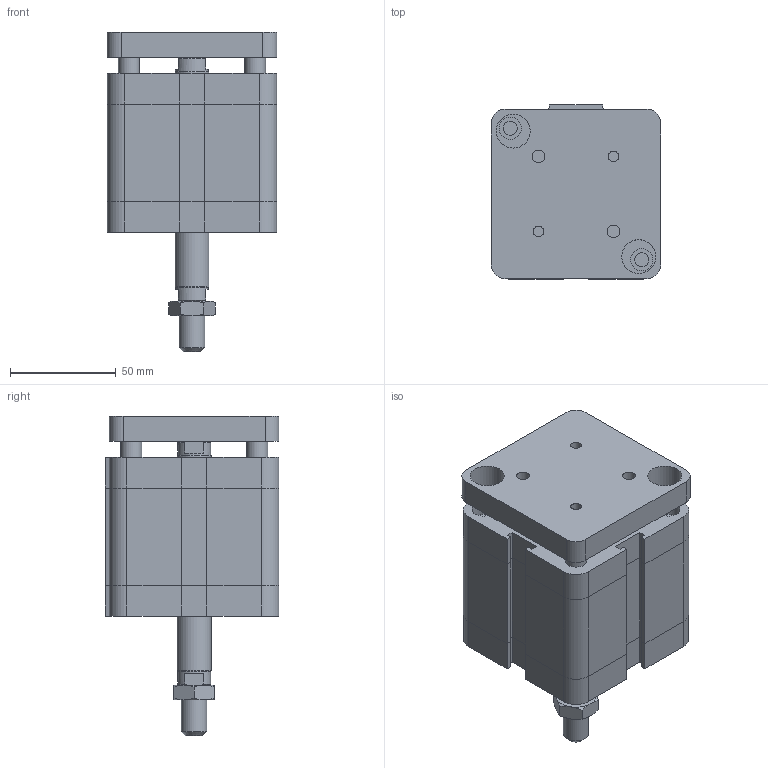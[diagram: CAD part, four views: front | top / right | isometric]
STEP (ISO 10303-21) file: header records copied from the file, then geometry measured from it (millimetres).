
FILE_DESCRIPTION((''),'2;1');
FILE_NAME('I:\Area Tecnica\Disegni\VARIE-3D\Componenti\EUROPE\15##_###_####_09_#\1581_63_0025_09_1.iam.stp','2009-04-20T15:47:16',(''),(''),'Autodesk Inventor 2009','Autodesk Inventor 2009','');
FILE_SCHEMA(('AUTOMOTIVE_DESIGN { 1 0 10303 214 1 1 1 1 }'));
Length unit declared in the file: millimetre
Products named in the file (4): 1581_63_0025_09_1; 1581_63_0025_08_1_C; 1561_63_0025_09_1_SA; DBFM12
Assembly tree (3 placements, depth 2):
  1581_63_0025_09_1
    1581_63_0025_08_1_C
    1561_63_0025_09_1_SA
    DBFM12
Bounding box: 80 x 82 x 151 mm (x, y, z)
Volume: 542487 mm3; surface area: 75863.8 mm2
Topology: 3 solids, 3 shells, 209 faces, 470 edges, 287 vertices
Faces by surface type: plane 120, bspline 45, cylinder 23, cone 21
Full cylindrical faces by diameter (mm): 10 x2, 10.8 x1, 12 x1, 15.6 x2, 16 x1
Entity records: 5963 total; most frequent: CARTESIAN_POINT 1453, DIRECTION 838, ORIENTED_EDGE 834, EDGE_CURVE 417, AXIS2_PLACEMENT_3D 282, EDGE_LOOP 282, VECTOR 274, LINE 274
